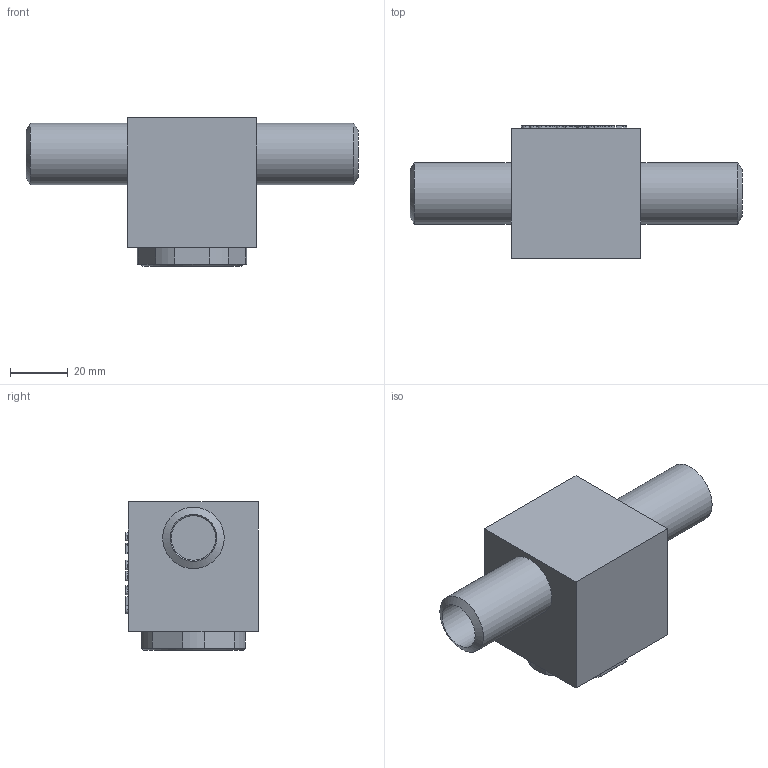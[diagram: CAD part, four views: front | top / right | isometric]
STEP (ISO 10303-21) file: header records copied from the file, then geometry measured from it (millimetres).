
FILE_DESCRIPTION(/* description */ (''),/* implementation_level */ '2;1');
FILE_NAME(/* name */ 'P:\Accessories\SSG-16_DN15-T-FL1\SSG-16_DN15-T-FL1.stp',/* time_stamp */ '2018-02-21T12:31:40+01:00',/* author */ ('neufeld'),/* organization */ (''),/* preprocessor_version */ 'ST-DEVELOPER v16.1',/* originating_system */ 'Autodesk Inventor 2016',/* authorisation */ '');
FILE_SCHEMA (('AUTOMOTIVE_DESIGN { 1 0 10303 214 3 1 1 }'));
Length unit declared in the file: millimetre
Products named in the file (1): SSG-16_DN15-T-FL1_AG-Kunde
Bounding box: 115 x 46 x 51.4 mm (x, y, z)
Volume: 114256.6 mm3; surface area: 20268.8 mm2
Topology: 1 solids, 1 shells, 1155 faces, 3176 edges, 2112 vertices
Faces by surface type: plane 685, bspline 448, cylinder 17, cone 5
Full cylindrical faces by diameter (mm): 16.2 x2, 21.3 x2, 24.2 x1
Entity records: 38160 total; most frequent: CARTESIAN_POINT 11768, ORIENTED_EDGE 6338, DIRECTION 3720, EDGE_CURVE 3163, LINE 2230, VECTOR 2230, VERTEX_POINT 2109, EDGE_LOOP 1254
